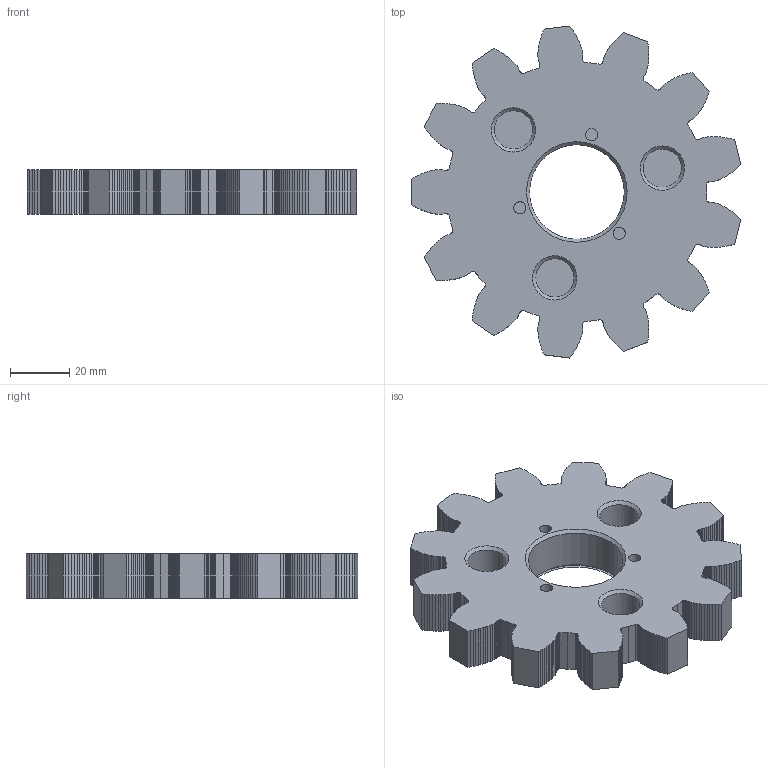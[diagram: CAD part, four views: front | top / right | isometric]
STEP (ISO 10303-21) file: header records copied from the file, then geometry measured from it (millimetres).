
FILE_DESCRIPTION( ( 'Unknown' ), '1' );
FILE_NAME( 'F:/navkite transat/construction/2016/3D ET ASSEMBLAGES/self tailing/WI 21.stp', 'Unknown', ( 'GMA' ), ( 'Unknown' ), 'XStep 1.0', 'Unknown', ' ' );
FILE_SCHEMA( ( 'automotive_design' ) );
Length unit declared in the file: millimetre
Products named in the file (3): 3
Bounding box: 111.39 x 112.21 x 15 mm (x, y, z)
Volume: 103698.2 mm3; surface area: 32977.2 mm2
Topology: 1 solids, 2 shells, 603 faces, 2385 edges, 1785 vertices
Faces by surface type: plane 588, cone 8, cylinder 7
Full cylindrical faces by diameter (mm): 4.134 x3, 13 x3, 32 x1
Entity records: 29347 total; most frequent: CARTESIAN_POINT 4791, ORIENTED_EDGE 4140, DIRECTION 3596, EDGE_CURVE 2364, LINE 2340, VECTOR 2340, VERTEX_POINT 1779, EDGE_LOOP 633
